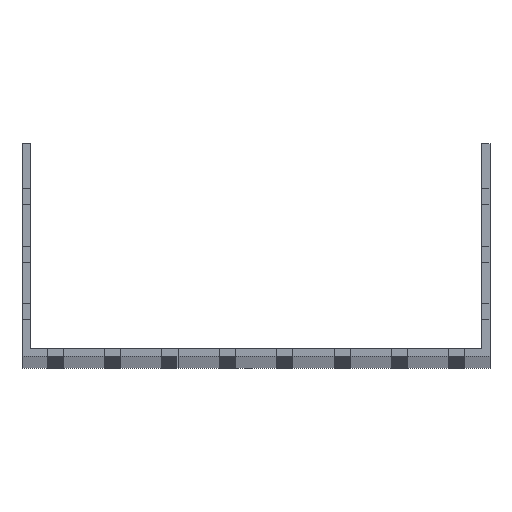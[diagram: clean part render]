
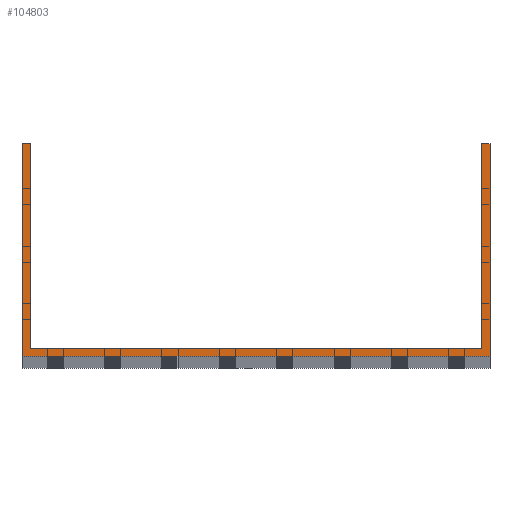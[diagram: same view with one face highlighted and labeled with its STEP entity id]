
A CAD part, top view. The second image highlights one B-rep face of the part: STEP entity #104803.
In plain terms, the highlighted planar face has unit normal (0, 0, 1).
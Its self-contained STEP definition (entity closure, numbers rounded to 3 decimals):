
#1851 = CARTESIAN_POINT ( 'NONE',  ( -102., 92.5, 1500. ) ) ;
#2365 = VECTOR ( 'NONE', #40950, 1000. ) ;
#6903 = ORIENTED_EDGE ( 'NONE', *, *, #98167, .T. ) ;
#8424 = LINE ( 'NONE', #126380, #27311 ) ;
#9712 = AXIS2_PLACEMENT_3D ( 'NONE', #30365, #42827, #116408 ) ;
#16429 = VECTOR ( 'NONE', #110286, 1000. ) ;
#18835 = VECTOR ( 'NONE', #26675, 1000. ) ;
#19336 = CARTESIAN_POINT ( 'NONE',  ( -98.5, 3.5, 1500. ) ) ;
#21243 = VERTEX_POINT ( 'NONE', #60961 ) ;
#23835 = EDGE_CURVE ( 'NONE', #85470, #89056, #43041, .T. ) ;
#25448 = ORIENTED_EDGE ( 'NONE', *, *, #136779, .T. ) ;
#26675 = DIRECTION ( 'NONE',  ( 1., 0., 0. ) ) ;
#27311 = VECTOR ( 'NONE', #29240, 1000. ) ;
#29240 = DIRECTION ( 'NONE',  ( 0., -1., 0. ) ) ;
#30365 = CARTESIAN_POINT ( 'NONE',  ( 0., 0., 1500. ) ) ;
#32894 = EDGE_CURVE ( 'NONE', #101435, #121081, #8424, .T. ) ;
#33339 = CARTESIAN_POINT ( 'NONE',  ( 102., 92.5, 1500. ) ) ;
#40079 = FACE_OUTER_BOUND ( 'NONE', #45547, .T. ) ;
#40950 = DIRECTION ( 'NONE',  ( 1., 0., 0. ) ) ;
#42827 = DIRECTION ( 'NONE',  ( 0., 0., 1. ) ) ;
#43041 = LINE ( 'NONE', #77016, #123633 ) ;
#45098 = CARTESIAN_POINT ( 'NONE',  ( -98.5, 92.5, 1500. ) ) ;
#45547 = EDGE_LOOP ( 'NONE', ( #93151, #125788, #6903, #25448, #124571, #103432, #91095, #52395 ) ) ;
#51032 = LINE ( 'NONE', #134347, #55383 ) ;
#52395 = ORIENTED_EDGE ( 'NONE', *, *, #77981, .F. ) ;
#54840 = CARTESIAN_POINT ( 'NONE',  ( -102., 92.5, 1500. ) ) ;
#55383 = VECTOR ( 'NONE', #61455, 1000. ) ;
#60961 = CARTESIAN_POINT ( 'NONE',  ( 98.5, 3.5, 1500. ) ) ;
#61409 = EDGE_CURVE ( 'NONE', #21243, #89056, #69318, .T. ) ;
#61455 = DIRECTION ( 'NONE',  ( 0., -1., 0. ) ) ;
#61594 = PLANE ( 'NONE',  #9712 ) ;
#64553 = DIRECTION ( 'NONE',  ( -1., 0., 0. ) ) ;
#65263 = VECTOR ( 'NONE', #107533, 1000. ) ;
#69138 = CARTESIAN_POINT ( 'NONE',  ( 98.5, 92.5, 1500. ) ) ;
#69318 = LINE ( 'NONE', #114901, #16429 ) ;
#77016 = CARTESIAN_POINT ( 'NONE',  ( -102., 92.5, 1500. ) ) ;
#77981 = EDGE_CURVE ( 'NONE', #121081, #21243, #132174, .T. ) ;
#83806 = VECTOR ( 'NONE', #86509, 1000. ) ;
#85470 = VERTEX_POINT ( 'NONE', #33339 ) ;
#86509 = DIRECTION ( 'NONE',  ( -1., 0., 0. ) ) ;
#89056 = VERTEX_POINT ( 'NONE', #69138 ) ;
#91095 = ORIENTED_EDGE ( 'NONE', *, *, #61409, .F. ) ;
#93151 = ORIENTED_EDGE ( 'NONE', *, *, #32894, .F. ) ;
#95752 = CARTESIAN_POINT ( 'NONE',  ( 102., 92.5, 1500. ) ) ;
#96912 = LINE ( 'NONE', #1851, #83806 ) ;
#98167 = EDGE_CURVE ( 'NONE', #118290, #115493, #51032, .T. ) ;
#101435 = VERTEX_POINT ( 'NONE', #45098 ) ;
#103432 = ORIENTED_EDGE ( 'NONE', *, *, #23835, .T. ) ;
#104803 = ADVANCED_FACE ( 'NONE', ( #40079 ), #61594, .T. ) ;
#105556 = CARTESIAN_POINT ( 'NONE',  ( 102., 0., 1500. ) ) ;
#105640 = EDGE_CURVE ( 'NONE', #112099, #85470, #116582, .T. ) ;
#107533 = DIRECTION ( 'NONE',  ( 0., 1., 0. ) ) ;
#110286 = DIRECTION ( 'NONE',  ( 0., 1., 0. ) ) ;
#112099 = VERTEX_POINT ( 'NONE', #105556 ) ;
#114901 = CARTESIAN_POINT ( 'NONE',  ( 98.5, 92.5, 1500. ) ) ;
#115493 = VERTEX_POINT ( 'NONE', #132957 ) ;
#116408 = DIRECTION ( 'NONE',  ( 1., 0., 0. ) ) ;
#116582 = LINE ( 'NONE', #95752, #65263 ) ;
#118290 = VERTEX_POINT ( 'NONE', #54840 ) ;
#121081 = VERTEX_POINT ( 'NONE', #19336 ) ;
#121760 = CARTESIAN_POINT ( 'NONE',  ( -102., 3.5, 1500. ) ) ;
#123633 = VECTOR ( 'NONE', #64553, 1000. ) ;
#124276 = LINE ( 'NONE', #136053, #2365 ) ;
#124571 = ORIENTED_EDGE ( 'NONE', *, *, #105640, .T. ) ;
#125788 = ORIENTED_EDGE ( 'NONE', *, *, #134546, .T. ) ;
#126380 = CARTESIAN_POINT ( 'NONE',  ( -98.5, 92.5, 1500. ) ) ;
#132174 = LINE ( 'NONE', #121760, #18835 ) ;
#132957 = CARTESIAN_POINT ( 'NONE',  ( -102., 0., 1500. ) ) ;
#134347 = CARTESIAN_POINT ( 'NONE',  ( -102., 92.5, 1500. ) ) ;
#134546 = EDGE_CURVE ( 'NONE', #101435, #118290, #96912, .T. ) ;
#136053 = CARTESIAN_POINT ( 'NONE',  ( -102., 0., 1500. ) ) ;
#136779 = EDGE_CURVE ( 'NONE', #115493, #112099, #124276, .T. ) ;
